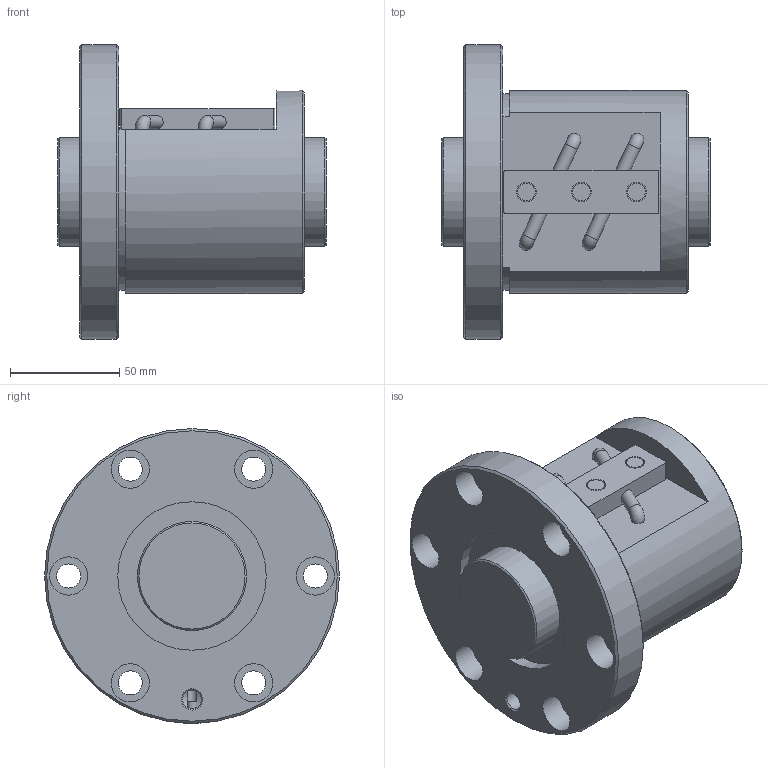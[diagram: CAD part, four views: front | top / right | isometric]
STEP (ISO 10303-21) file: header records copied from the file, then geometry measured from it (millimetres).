
FILE_DESCRIPTION(/* description */ ('STEP AP203'),/* implementation_level */ '2;1');
FILE_NAME(/* name */ 'BNF5010V-5RRG1+123LC0_000_rev',/* time_stamp */ '2024-08-06T09:05:05+02:00',/* author */ ('License CC BY-ND 4.0'),/* organization */ ('CADENAS'),/* preprocessor_version */ 'ST-DEVELOPER v19.3',/* originating_system */ 'PARTsolutions',/* authorisation */ ' ');
FILE_SCHEMA (('CONFIG_CONTROL_DESIGN'));
Length unit declared in the file: millimetre
Products named in the file (3): BNF5010V-5RRG1+123LC0_000_rev; BNF 5010-5RR000 Shaft; BNF 5010-5RR Nut
Assembly tree (2 placements, depth 2):
  BNF5010V-5RRG1+123LC0_000_rev
    BNF 5010-5RR000 Shaft
    BNF 5010-5RR Nut
Bounding box: 123 x 135 x 135 mm (x, y, z)
Volume: 783961.7 mm3; surface area: 106193.3 mm2
Topology: 2 solids, 2 shells, 78 faces, 172 edges, 113 vertices
Faces by surface type: cylinder 37, plane 29, cone 8, torus 4
Full cylindrical faces by diameter (mm): 4.5 x2, 6.198 x4, 8 x3, 8.566 x1, 9 x3, 11 x6, 17.5 x6, 50 x2, 68 x2, 93 x1, 135 x1
Entity records: 1997 total; most frequent: DIRECTION 352, CARTESIAN_POINT 347, ORIENTED_EDGE 230, AXIS2_PLACEMENT_3D 164, EDGE_LOOP 160, FACE_BOUND 160, EDGE_CURVE 115, VERTEX_POINT 99
